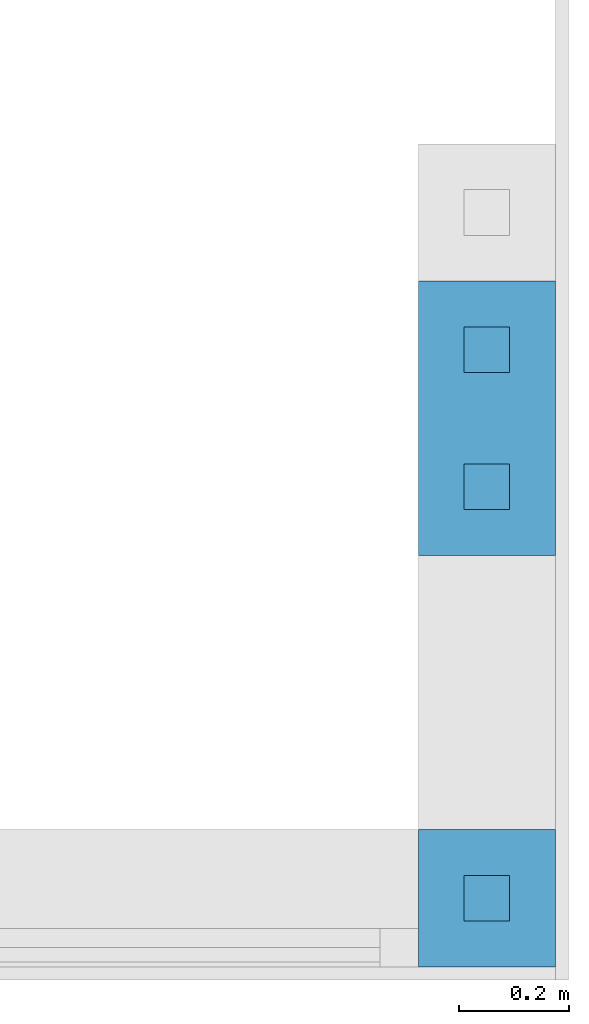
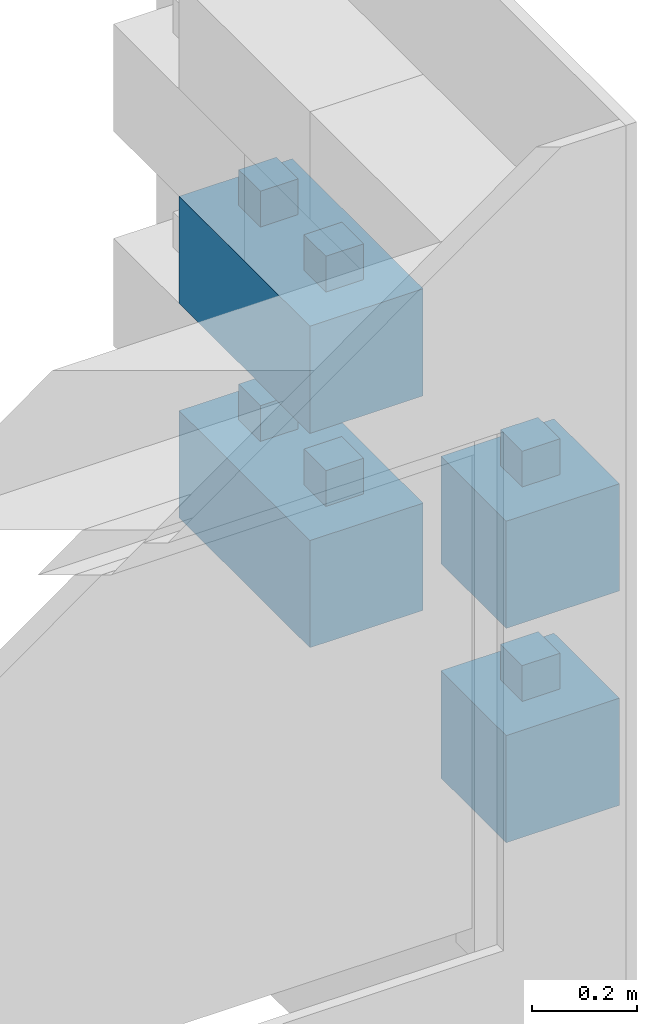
# One storey, part 3 of 5: 4 walls.
"""IFC4 building model written with IfcOpenShell, lengths in centimetres."""

import ifcopenshell
import ifcopenshell.guid

model = None  # the IFC model being written
_history = None  # IfcOwnerHistory: only IFC2X3 demands one
_inside = {}  # id of a spatial element -> (the spatial element, [elements in it])
_under = {}  # id of a project, library or spatial element -> (it, [spatial elements below it])
_declared = {}  # id of a project -> (the project, [libraries it declares])
_typed = {}  # id of a type object -> (the type object, [elements of that type])
_made_of = {}  # id of a material, layer set ... -> (it, [elements and type objects made of it])


def new_model(schema):
    """Start an empty IFC model of exactly this schema.

    Asked for "IFC4X3", IfcOpenShell would pick the latest addendum, in which some entities
    have other attributes; the version numbers below select the first issue.
    IFC2X3 requires an IfcOwnerHistory on every rooted entity: one is made here for all.
    """
    global model, _history
    if schema == "IFC4X3":
        model = ifcopenshell.file(schema_version=(4, 3, 0, 0))
    else:
        model = ifcopenshell.file(schema=schema)
    _inside.clear()
    _under.clear()
    _declared.clear()
    _typed.clear()
    _made_of.clear()
    _history = None
    if model.schema == "IFC2X3":
        org = make("IfcOrganization", Name="unknown")
        user = make(
            "IfcPersonAndOrganization",
            ThePerson=make("IfcPerson", FamilyName="unknown"),
            TheOrganization=org,
        )
        app = make(
            "IfcApplication",
            ApplicationDeveloper=org,
            Version="unknown",
            ApplicationFullName="unknown",
            ApplicationIdentifier="unknown",
        )
        _history = make(
            "IfcOwnerHistory",
            OwningUser=user,
            OwningApplication=app,
            ChangeAction="ADDED",
            CreationDate=0,
        )
    return model


def make(cls, **values):
    """One entity of the class cls with the attributes given. An attribute that is None is left unset."""
    return model.create_entity(
        cls, **{name: value for name, value in values.items() if value is not None}
    )


def entity(cls, *values):
    """Any entity or typed value of the class cls, its attributes in the order of the schema. None: left unset."""
    e = model.create_entity(cls)
    for i, value in enumerate(values):
        if value is not None:
            e[i] = value
    return e


def rooted(cls, **values):
    """An entity with a GlobalId (a new one), such as an element, a storey or a relation."""
    return make(cls, GlobalId=ifcopenshell.guid.new(), OwnerHistory=_history, **values)


def si_unit(unit_type, name, prefix=None):
    """IfcSIUnit, for example si_unit("LENGTHUNIT", "METRE", prefix="MILLI")."""
    return make("IfcSIUnit", UnitType=unit_type, Prefix=prefix, Name=name)


def converted_unit(unit_type, name, factor, base, dimensions=None, offset=None):
    """IfcConversionBasedUnit, such as the inch: factor (a typed value) times the base unit."""
    return make(
        "IfcConversionBasedUnit"
        if offset is None
        else "IfcConversionBasedUnitWithOffset",
        ConversionOffset=offset,
        Dimensions=None
        if dimensions is None
        else entity("IfcDimensionalExponents", *dimensions),
        UnitType=unit_type,
        Name=name,
        ConversionFactor=make(
            "IfcMeasureWithUnit", ValueComponent=factor, UnitComponent=base
        ),
    )


def assignment(units):
    """IfcUnitAssignment: the units of a project."""
    return None if units is None else make("IfcUnitAssignment", Units=units)


def point(xyz):
    """IfcCartesianPoint."""
    return None if xyz is None else make("IfcCartesianPoint", Coordinates=xyz)


def direction(xyz):
    """IfcDirection."""
    return None if xyz is None else make("IfcDirection", DirectionRatios=xyz)


def frame(location, z_axis=None, x_axis=None):
    """IfcAxis2Placement3D, a coordinate frame: its origin and axes. An axis left out is left unset."""
    return make(
        "IfcAxis2Placement3D",
        Location=point(location),
        Axis=direction(z_axis),
        RefDirection=direction(x_axis),
    )


def origin():
    """The frame at (0, 0, 0) with its axes left unset."""
    return frame((0.0, 0.0, 0.0))


def place(relative_to, where):
    """IfcLocalPlacement: puts the frame where relative to a parent placement (None: the world)."""
    return make(
        "IfcLocalPlacement", PlacementRelTo=relative_to, RelativePlacement=where
    )


def context(
    kind, dimensions, precision=None, world=None, true_north=None, identifier=None
):
    """IfcGeometricRepresentationContext, for example the 3D "Model" context."""
    return make(
        "IfcGeometricRepresentationContext",
        ContextIdentifier=identifier,
        ContextType=kind,
        CoordinateSpaceDimension=dimensions,
        Precision=precision,
        WorldCoordinateSystem=world,
        TrueNorth=true_north,
    )


def subcontext(parent, identifier, kind, view, scale=None):
    """IfcGeometricRepresentationSubContext, for example "Body" below "Model"."""
    return make(
        "IfcGeometricRepresentationSubContext",
        ContextIdentifier=identifier,
        ContextType=kind,
        ParentContext=parent,
        TargetScale=scale,
        TargetView=view,
    )


def project(units=None, contexts=None):
    """IfcProject with its units and contexts."""
    return rooted(
        "IfcProject",
        Name="project",
        RepresentationContexts=contexts,
        UnitsInContext=assignment(units),
    )


def spatial(cls, under=None, at=None, **own):
    """A site, building, storey or space (cls), placed at a placement, below another one or the project."""
    s = rooted(cls, ObjectPlacement=at, **own)
    if under is not None:
        _under.setdefault(under.id(), (under, []))[1].append(s)
    return s


def point_list(points):
    """IfcCartesianPointList2D or 3D."""
    cls = (
        "IfcCartesianPointList2D" if len(points[0]) == 2 else "IfcCartesianPointList3D"
    )
    return make(cls, CoordList=points)


def indexed_curve(points, segments=None, self_intersect=None):
    """IfcIndexedPolyCurve: lines and arcs through numbered points (the first is 1)."""
    return make(
        "IfcIndexedPolyCurve",
        Points=point_list(points),
        Segments=segments,
        SelfIntersect=self_intersect,
    )


def outline(outer, holes=None, kind="AREA"):
    """IfcArbitraryClosedProfileDef: a profile drawn as a closed curve; with holes, ...WithVoids."""
    if holes is None:
        return make("IfcArbitraryClosedProfileDef", ProfileType=kind, OuterCurve=outer)
    return make(
        "IfcArbitraryProfileDefWithVoids",
        ProfileType=kind,
        OuterCurve=outer,
        InnerCurves=holes,
    )


def extrude(swept, where, along, depth):
    """IfcExtrudedAreaSolid: the profile swept, set in the frame where, extruded along a direction by depth."""
    return make(
        "IfcExtrudedAreaSolid",
        SweptArea=swept,
        Position=where,
        ExtrudedDirection=direction(along),
        Depth=depth,
    )


def shape(context_of_items, identifier, shape_type, items):
    """IfcShapeRepresentation: the items that make up one representation, for example the "Body"."""
    return make(
        "IfcShapeRepresentation",
        ContextOfItems=context_of_items,
        RepresentationIdentifier=identifier,
        RepresentationType=shape_type,
        Items=items,
    )


def material(Name=None, Category=None):
    """IfcMaterial."""
    return make("IfcMaterial", Name=Name, Category=Category)


def made_of(thing, what):
    """Note that an element or type object is made of a material, layer set ...; save() writes the relation."""
    if what is not None:
        _made_of.setdefault(what.id(), (what, []))[1].append(thing)
    return thing


def type_object(cls, material=None, **own):
    """A type object (cls), such as IfcWallType, which elements share."""
    return made_of(rooted(cls, **own), material)


def element(
    cls,
    number,
    at=None,
    inside=None,
    cuts=None,
    type_object=None,
    material=None,
    context=None,
    identifier="Body",
    shape_type=None,
    held_by="IfcProductDefinitionShape",
    body=None,
    shapes=None,
    **own,
):
    """One element of the class cls, such as IfcWall. Its Tag is "e" and its number.

    at: its placement. inside: the storey or other place that contains it. cuts: it is an
    opening in that element (IfcRelVoidsElement). A single representation is given by context,
    identifier, shape_type and body (its items); several are given by shapes. held_by: the class
    of the entity that holds the representations. save() writes the other relations.
    """
    e = rooted(cls, Tag="e%d" % number, ObjectPlacement=at, **own)
    if body is not None:
        shapes = [shape(context, identifier, shape_type, body)]
    if shapes is not None:
        e.Representation = make(held_by, Representations=shapes)
    if inside is not None:
        _inside.setdefault(inside.id(), (inside, []))[1].append(e)
    if cuts is not None:
        rooted(
            "IfcRelVoidsElement", RelatingBuildingElement=cuts, RelatedOpeningElement=e
        )
    if type_object is not None:
        _typed.setdefault(type_object.id(), (type_object, []))[1].append(e)
    return made_of(e, material)


def aggregate(whole, parts):
    """IfcRelAggregates: a whole, such as a stair, and the parts it consists of."""
    return rooted("IfcRelAggregates", RelatingObject=whole, RelatedObjects=parts)


def save(model, path):
    """Write the relations noted so far, then the file.

    IfcRelAggregates (storeys below a building ...), IfcRelContainedInSpatialStructure (elements
    in a storey), IfcRelDefinesByType, IfcRelAssociatesMaterial and IfcRelDeclares: one each for
    every whole, place, type object, material and project.
    """
    for whole, parts in _under.values():
        aggregate(whole, parts)
    for where, things in _inside.values():
        rooted(
            "IfcRelContainedInSpatialStructure",
            RelatedElements=things,
            RelatingStructure=where,
        )
    for kind, things in _typed.values():
        rooted("IfcRelDefinesByType", RelatedObjects=things, RelatingType=kind)
    for what, things in _made_of.values():
        rooted("IfcRelAssociatesMaterial", RelatedObjects=things, RelatingMaterial=what)
    for by, libraries in _declared.values():
        rooted("IfcRelDeclares", RelatingContext=by, RelatedDefinitions=libraries)
    model.write(path)


model = new_model("IFC4")

# Units and contexts
model_context = context("Model", 3, precision=0.001, world=origin(), true_north=direction((0.0, 1.0)))
body_context = subcontext(model_context, "Body", "Model", "MODEL_VIEW")
ifc_project = project(units=[si_unit("LENGTHUNIT", "METRE", prefix="CENTI"), si_unit("AREAUNIT", "SQUARE_METRE"), si_unit("VOLUMEUNIT", "CUBIC_METRE"), converted_unit("PLANEANGLEUNIT", "DEGREE", entity("IfcPlaneAngleMeasure", 0.017453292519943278), si_unit("PLANEANGLEUNIT", "RADIAN"), dimensions=[0, 0, 0, 0, 0, 0, 0])], contexts=[model_context])

# Site, building, storey
site_placement = place(None, origin())
site = spatial("IfcSite", under=ifc_project, at=site_placement, Name="Default", CompositionType="ELEMENT")
building_placement = place(site_placement, origin())
building = spatial("IfcBuilding", under=site, at=building_placement, CompositionType="ELEMENT")
storey_placement = place(building_placement, frame((0.0, 0.0, -4.0)))
storey = spatial("IfcBuildingStorey", under=building, at=storey_placement, Name="L00__ABOVE Slab", CompositionType="ELEMENT", Elevation=-4.000000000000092)

# Walls
ifc_material = material(Name="Miscellaneous__Timber Block__Triqbriq, X", Category="Miscellaneous")
wall_type_1 = type_object("IfcWallType", Name="Columns : wll_s__TIMBER BLOCK__Triqbriq, Full Width__wp : WS25", PredefinedType="SOLIDWALL", material=ifc_material)
wall_1_placement = place(storey_placement, frame((3156.8289147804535, 2203.5200309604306, 175.0), z_axis=(0.0, 0.0, 1.0), x_axis=(0.0, 1.0, 0.0)))
element("IfcWall", 1, at=wall_1_placement, inside=storey, type_object=wall_type_1, material=ifc_material, Name="Columns : wll_s__TIMBER BLOCK__Triqbriq, Full Width__wp : WS25", PredefinedType="SOLIDWALL", context=body_context, shape_type="SweptSolid", body=[
    extrude(outline(indexed_curve([(-4.166666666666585, -4.166666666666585), (4.166666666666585, -4.166666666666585), (4.166666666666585, 4.166666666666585), (-4.166666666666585, 4.166666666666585), (-4.166666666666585, -4.166666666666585)], self_intersect=False)), frame((12.500000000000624, -12.500000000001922, 16.666666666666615)), (0.0, 0.0, 1.0), 16.66666666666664),
    extrude(outline(indexed_curve([(-4.166666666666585, -4.166666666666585), (4.166666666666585, -4.166666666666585), (4.166666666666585, 4.166666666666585), (-4.166666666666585, 4.166666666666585), (-4.166666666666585, -4.166666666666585)], self_intersect=False)), frame((37.50000000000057, -12.500000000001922, 16.66666666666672)), (0.0, 0.0, 1.0), 16.66666666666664),
    extrude(outline(indexed_curve([(-4.166666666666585, -4.166666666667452), (4.166666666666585, -4.166666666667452), (4.166666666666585, 4.166666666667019), (-4.166666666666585, 4.166666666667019), (-4.166666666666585, -4.166666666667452)], self_intersect=False)), frame((4.166666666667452, -4.166666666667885, 8.333333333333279)), (0.0, 0.0, 1.0), 8.333333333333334),
    extrude(outline(indexed_curve([(-4.166666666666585, -4.166666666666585), (4.166666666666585, -4.166666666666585), (4.166666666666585, 4.166666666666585), (-4.166666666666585, 4.166666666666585), (-4.166666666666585, -4.166666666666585)], self_intersect=False)), frame((4.166666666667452, -20.833333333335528, 8.333333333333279)), (0.0, 0.0, 1.0), 8.333333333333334),
    extrude(outline(indexed_curve([(-4.166666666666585, -4.166666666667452), (4.166666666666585, -4.166666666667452), (4.166666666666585, 4.166666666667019), (-4.166666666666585, 4.166666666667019), (-4.166666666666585, -4.166666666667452)], self_intersect=False)), frame((45.833333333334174, -4.166666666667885, 8.333333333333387)), (0.0, 0.0, 1.0), 8.333333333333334),
    extrude(outline(indexed_curve([(-4.166666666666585, -4.166666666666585), (4.166666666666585, -4.166666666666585), (4.166666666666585, 4.166666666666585), (-4.166666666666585, 4.166666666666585), (-4.166666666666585, -4.166666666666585)], self_intersect=False)), frame((45.833333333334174, -20.833333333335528, 8.333333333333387)), (0.0, 0.0, 1.0), 8.333333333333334),
    extrude(outline(indexed_curve([(-8.33333333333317, -4.166666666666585), (8.333333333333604, -4.166666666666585), (8.333333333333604, 4.166666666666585), (-8.33333333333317, 4.166666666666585), (-8.33333333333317, -4.166666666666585)], self_intersect=False)), frame((25.0, -20.833333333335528, 8.333333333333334)), (0.0, 0.0, 1.0), 8.333333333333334),
    extrude(outline(indexed_curve([(-8.33333333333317, -4.166666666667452), (8.333333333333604, -4.166666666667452), (8.333333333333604, 4.166666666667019), (-8.33333333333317, 4.166666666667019), (-8.33333333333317, -4.166666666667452)], self_intersect=False)), frame((25.0, -4.166666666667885, 8.333333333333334)), (0.0, 0.0, 1.0), 8.333333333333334),
    extrude(outline(indexed_curve([(-24.999999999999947, -4.166666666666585), (24.999999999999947, -4.166666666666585), (24.999999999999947, 4.166666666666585), (-24.999999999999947, 4.166666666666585), (-24.999999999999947, -4.166666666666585)], self_intersect=False)), frame((25.0, -12.500000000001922, 8.333333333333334)), (0.0, 0.0, 1.0), 8.333333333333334),
    extrude(outline(indexed_curve([(-4.166666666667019, -12.50000000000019), (4.166666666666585, -12.50000000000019), (4.166666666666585, 12.500000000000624), (-4.166666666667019, 12.500000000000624), (-4.166666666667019, -12.50000000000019)], self_intersect=False)), frame((20.833333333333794, -12.500000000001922, 0.0)), (0.0, 0.0, 1.0), 8.333333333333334),
    extrude(outline(indexed_curve([(-4.166666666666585, -12.50000000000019), (4.166666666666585, -12.50000000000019), (4.166666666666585, 12.500000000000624), (-4.166666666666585, 12.500000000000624), (-4.166666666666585, -12.50000000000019)], self_intersect=False)), frame((29.166666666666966, -12.500000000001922, 0.0)), (0.0, 0.0, 1.0), 8.333333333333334),
    extrude(outline(indexed_curve([(-4.166666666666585, -12.50000000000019), (4.166666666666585, -12.50000000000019), (4.166666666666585, 12.500000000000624), (-4.166666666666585, 12.500000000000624), (-4.166666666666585, -12.50000000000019)], self_intersect=False)), frame((4.166666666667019, -12.500000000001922, 0.0)), (0.0, 0.0, 1.0), 8.333333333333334),
    extrude(outline(indexed_curve([(-4.166666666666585, -12.50000000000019), (4.166666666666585, -12.50000000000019), (4.166666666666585, 12.500000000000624), (-4.166666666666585, 12.500000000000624), (-4.166666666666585, -12.50000000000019)], self_intersect=False)), frame((45.83333333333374, -12.500000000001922, 0.0)), (0.0, 0.0, 1.0), 8.333333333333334),
    extrude(outline(indexed_curve([(-4.166666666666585, -4.166666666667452), (4.166666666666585, -4.166666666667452), (4.166666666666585, 4.166666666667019), (-4.166666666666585, 4.166666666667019), (-4.166666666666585, -4.166666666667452)], self_intersect=False)), frame((12.50000000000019, -4.166666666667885, 0.0)), (0.0, 0.0, 1.0), 24.999999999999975),
    extrude(outline(indexed_curve([(-4.166666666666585, -4.166666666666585), (4.166666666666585, -4.166666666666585), (4.166666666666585, 4.166666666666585), (-4.166666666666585, 4.166666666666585), (-4.166666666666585, -4.166666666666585)], self_intersect=False)), frame((12.50000000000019, -20.833333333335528, 0.0)), (0.0, 0.0, 1.0), 24.999999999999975),
    extrude(outline(indexed_curve([(-4.166666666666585, -4.166666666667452), (4.166666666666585, -4.166666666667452), (4.166666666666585, 4.166666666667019), (-4.166666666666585, 4.166666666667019), (-4.166666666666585, -4.166666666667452)], self_intersect=False)), frame((37.500000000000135, -4.166666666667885, 0.0)), (0.0, 0.0, 1.0), 24.999999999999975),
    extrude(outline(indexed_curve([(-4.166666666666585, -4.166666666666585), (4.166666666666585, -4.166666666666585), (4.166666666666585, 4.166666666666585), (-4.166666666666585, 4.166666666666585), (-4.166666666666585, -4.166666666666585)], self_intersect=False)), frame((37.500000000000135, -20.833333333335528, 0.0)), (0.0, 0.0, 1.0), 24.999999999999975),
    extrude(outline(indexed_curve([(-4.166666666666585, -12.50000000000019), (4.166666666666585, -12.50000000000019), (4.166666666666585, 12.500000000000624), (-4.166666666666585, 12.500000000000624), (-4.166666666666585, -12.50000000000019)], self_intersect=False)), frame((4.166666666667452, -12.500000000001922, 16.666666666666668)), (0.0, 0.0, 1.0), 8.333333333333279),
    extrude(outline(indexed_curve([(-4.166666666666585, -12.50000000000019), (4.166666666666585, -12.50000000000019), (4.166666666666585, 12.500000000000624), (-4.166666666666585, 12.500000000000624), (-4.166666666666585, -12.50000000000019)], self_intersect=False)), frame((20.833333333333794, -12.500000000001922, 16.66666666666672)), (0.0, 0.0, 1.0), 8.333333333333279),
    extrude(outline(indexed_curve([(-4.166666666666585, -12.50000000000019), (4.166666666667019, -12.50000000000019), (4.166666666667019, 12.500000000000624), (-4.166666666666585, 12.500000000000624), (-4.166666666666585, -12.50000000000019)], self_intersect=False)), frame((29.166666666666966, -12.500000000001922, 16.66666666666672)), (0.0, 0.0, 1.0), 8.333333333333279),
    extrude(outline(indexed_curve([(-4.166666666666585, -12.50000000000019), (4.166666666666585, -12.50000000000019), (4.166666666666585, 12.500000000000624), (-4.166666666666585, 12.500000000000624), (-4.166666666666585, -12.50000000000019)], self_intersect=False)), frame((45.833333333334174, -12.500000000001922, 16.666666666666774)), (0.0, 0.0, 1.0), 8.333333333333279),
])
wall_2_placement = place(storey_placement, frame((3156.8289147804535, 2203.5200309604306, 125.0), z_axis=(0.0, 0.0, 1.0), x_axis=(0.0, 1.0, 0.0)))
element("IfcWall", 2, at=wall_2_placement, inside=storey, type_object=wall_type_1, material=ifc_material, Name="Columns : wll_s__TIMBER BLOCK__Triqbriq, Full Width__wp : WS25", PredefinedType="SOLIDWALL", context=body_context, shape_type="SweptSolid", body=[
    extrude(outline(indexed_curve([(-4.166666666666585, -4.166666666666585), (4.166666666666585, -4.166666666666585), (4.166666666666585, 4.166666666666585), (-4.166666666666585, 4.166666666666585), (-4.166666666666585, -4.166666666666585)], self_intersect=False)), frame((12.500000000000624, -12.500000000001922, 16.666666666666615)), (0.0, 0.0, 1.0), 16.66666666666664),
    extrude(outline(indexed_curve([(-4.166666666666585, -4.166666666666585), (4.166666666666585, -4.166666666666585), (4.166666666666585, 4.166666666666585), (-4.166666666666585, 4.166666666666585), (-4.166666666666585, -4.166666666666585)], self_intersect=False)), frame((37.50000000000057, -12.500000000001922, 16.66666666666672)), (0.0, 0.0, 1.0), 16.66666666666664),
    extrude(outline(indexed_curve([(-4.166666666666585, -4.166666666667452), (4.166666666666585, -4.166666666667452), (4.166666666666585, 4.166666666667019), (-4.166666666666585, 4.166666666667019), (-4.166666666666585, -4.166666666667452)], self_intersect=False)), frame((4.166666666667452, -4.166666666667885, 8.333333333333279)), (0.0, 0.0, 1.0), 8.333333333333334),
    extrude(outline(indexed_curve([(-4.166666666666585, -4.166666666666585), (4.166666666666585, -4.166666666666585), (4.166666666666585, 4.166666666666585), (-4.166666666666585, 4.166666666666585), (-4.166666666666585, -4.166666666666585)], self_intersect=False)), frame((4.166666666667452, -20.833333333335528, 8.333333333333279)), (0.0, 0.0, 1.0), 8.333333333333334),
    extrude(outline(indexed_curve([(-4.166666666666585, -4.166666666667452), (4.166666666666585, -4.166666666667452), (4.166666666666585, 4.166666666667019), (-4.166666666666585, 4.166666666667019), (-4.166666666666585, -4.166666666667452)], self_intersect=False)), frame((45.833333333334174, -4.166666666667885, 8.333333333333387)), (0.0, 0.0, 1.0), 8.333333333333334),
    extrude(outline(indexed_curve([(-4.166666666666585, -4.166666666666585), (4.166666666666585, -4.166666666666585), (4.166666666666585, 4.166666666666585), (-4.166666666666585, 4.166666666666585), (-4.166666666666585, -4.166666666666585)], self_intersect=False)), frame((45.833333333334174, -20.833333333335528, 8.333333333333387)), (0.0, 0.0, 1.0), 8.333333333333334),
    extrude(outline(indexed_curve([(-8.33333333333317, -4.166666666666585), (8.333333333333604, -4.166666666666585), (8.333333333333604, 4.166666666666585), (-8.33333333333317, 4.166666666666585), (-8.33333333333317, -4.166666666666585)], self_intersect=False)), frame((25.0, -20.833333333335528, 8.333333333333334)), (0.0, 0.0, 1.0), 8.333333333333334),
    extrude(outline(indexed_curve([(-8.33333333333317, -4.166666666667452), (8.333333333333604, -4.166666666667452), (8.333333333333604, 4.166666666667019), (-8.33333333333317, 4.166666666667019), (-8.33333333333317, -4.166666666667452)], self_intersect=False)), frame((25.0, -4.166666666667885, 8.333333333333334)), (0.0, 0.0, 1.0), 8.333333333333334),
    extrude(outline(indexed_curve([(-24.999999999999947, -4.166666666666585), (24.999999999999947, -4.166666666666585), (24.999999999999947, 4.166666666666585), (-24.999999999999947, 4.166666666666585), (-24.999999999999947, -4.166666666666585)], self_intersect=False)), frame((25.0, -12.500000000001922, 8.333333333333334)), (0.0, 0.0, 1.0), 8.333333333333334),
    extrude(outline(indexed_curve([(-4.166666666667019, -12.50000000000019), (4.166666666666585, -12.50000000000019), (4.166666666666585, 12.500000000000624), (-4.166666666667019, 12.500000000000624), (-4.166666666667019, -12.50000000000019)], self_intersect=False)), frame((20.833333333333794, -12.500000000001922, 0.0)), (0.0, 0.0, 1.0), 8.333333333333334),
    extrude(outline(indexed_curve([(-4.166666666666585, -12.50000000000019), (4.166666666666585, -12.50000000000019), (4.166666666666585, 12.500000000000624), (-4.166666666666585, 12.500000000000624), (-4.166666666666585, -12.50000000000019)], self_intersect=False)), frame((29.166666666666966, -12.500000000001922, 0.0)), (0.0, 0.0, 1.0), 8.333333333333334),
    extrude(outline(indexed_curve([(-4.166666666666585, -12.50000000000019), (4.166666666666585, -12.50000000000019), (4.166666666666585, 12.500000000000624), (-4.166666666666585, 12.500000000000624), (-4.166666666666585, -12.50000000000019)], self_intersect=False)), frame((4.166666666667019, -12.500000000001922, 0.0)), (0.0, 0.0, 1.0), 8.333333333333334),
    extrude(outline(indexed_curve([(-4.166666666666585, -12.50000000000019), (4.166666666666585, -12.50000000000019), (4.166666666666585, 12.500000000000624), (-4.166666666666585, 12.500000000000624), (-4.166666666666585, -12.50000000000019)], self_intersect=False)), frame((45.83333333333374, -12.500000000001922, 0.0)), (0.0, 0.0, 1.0), 8.333333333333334),
    extrude(outline(indexed_curve([(-4.166666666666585, -4.166666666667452), (4.166666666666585, -4.166666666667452), (4.166666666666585, 4.166666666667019), (-4.166666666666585, 4.166666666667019), (-4.166666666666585, -4.166666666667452)], self_intersect=False)), frame((12.50000000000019, -4.166666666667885, 0.0)), (0.0, 0.0, 1.0), 24.999999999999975),
    extrude(outline(indexed_curve([(-4.166666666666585, -4.166666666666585), (4.166666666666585, -4.166666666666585), (4.166666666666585, 4.166666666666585), (-4.166666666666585, 4.166666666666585), (-4.166666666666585, -4.166666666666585)], self_intersect=False)), frame((12.50000000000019, -20.833333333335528, 0.0)), (0.0, 0.0, 1.0), 24.999999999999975),
    extrude(outline(indexed_curve([(-4.166666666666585, -4.166666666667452), (4.166666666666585, -4.166666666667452), (4.166666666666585, 4.166666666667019), (-4.166666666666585, 4.166666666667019), (-4.166666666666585, -4.166666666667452)], self_intersect=False)), frame((37.500000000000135, -4.166666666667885, 0.0)), (0.0, 0.0, 1.0), 24.999999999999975),
    extrude(outline(indexed_curve([(-4.166666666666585, -4.166666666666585), (4.166666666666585, -4.166666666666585), (4.166666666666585, 4.166666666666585), (-4.166666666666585, 4.166666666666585), (-4.166666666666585, -4.166666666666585)], self_intersect=False)), frame((37.500000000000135, -20.833333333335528, 0.0)), (0.0, 0.0, 1.0), 24.999999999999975),
    extrude(outline(indexed_curve([(-4.166666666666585, -12.50000000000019), (4.166666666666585, -12.50000000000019), (4.166666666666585, 12.500000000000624), (-4.166666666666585, 12.500000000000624), (-4.166666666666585, -12.50000000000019)], self_intersect=False)), frame((4.166666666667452, -12.500000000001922, 16.666666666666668)), (0.0, 0.0, 1.0), 8.333333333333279),
    extrude(outline(indexed_curve([(-4.166666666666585, -12.50000000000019), (4.166666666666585, -12.50000000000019), (4.166666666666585, 12.500000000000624), (-4.166666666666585, 12.500000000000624), (-4.166666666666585, -12.50000000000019)], self_intersect=False)), frame((20.833333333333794, -12.500000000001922, 16.66666666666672)), (0.0, 0.0, 1.0), 8.333333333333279),
    extrude(outline(indexed_curve([(-4.166666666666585, -12.50000000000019), (4.166666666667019, -12.50000000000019), (4.166666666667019, 12.500000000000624), (-4.166666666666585, 12.500000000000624), (-4.166666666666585, -12.50000000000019)], self_intersect=False)), frame((29.166666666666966, -12.500000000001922, 16.66666666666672)), (0.0, 0.0, 1.0), 8.333333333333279),
    extrude(outline(indexed_curve([(-4.166666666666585, -12.50000000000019), (4.166666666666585, -12.50000000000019), (4.166666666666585, 12.500000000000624), (-4.166666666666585, 12.500000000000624), (-4.166666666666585, -12.50000000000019)], self_intersect=False)), frame((45.833333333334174, -12.500000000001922, 16.666666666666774)), (0.0, 0.0, 1.0), 8.333333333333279),
])
wall_type_2 = type_object("IfcWallType", Name="Columns : wll_s__TIMBER BLOCK__Triqbriq, Half Width__wp : WS25", PredefinedType="SOLIDWALL", material=ifc_material)
wall_3_placement = place(storey_placement, frame((3156.8289147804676, 2128.5200309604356, 125.0), z_axis=(0.0, 0.0, 1.0), x_axis=(0.0, 1.0, 0.0)))
element("IfcWall", 3, at=wall_3_placement, inside=storey, type_object=wall_type_2, material=ifc_material, Name="Columns : wll_s__TIMBER BLOCK__Triqbriq, Half Width__wp : WS25", PredefinedType="SOLIDWALL", context=body_context, shape_type="SweptSolid", body=[
    extrude(outline(indexed_curve([(-4.166666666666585, -4.166666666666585), (4.166666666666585, -4.166666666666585), (4.166666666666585, 4.166666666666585), (-4.166666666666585, 4.166666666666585), (-4.166666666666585, -4.166666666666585)], self_intersect=False)), frame((12.500000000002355, -12.500000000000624, 16.66666666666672), z_axis=(0.0, 0.0, 1.0), x_axis=(0.0, 1.0, 0.0)), (0.0, 0.0, 1.0), 16.66666666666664),
    extrude(outline(indexed_curve([(-4.166666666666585, -4.166666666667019), (4.166666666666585, -4.166666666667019), (4.166666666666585, 4.166666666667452), (-4.166666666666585, 4.166666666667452), (-4.166666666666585, -4.166666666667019)], self_intersect=False)), frame((4.1666666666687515, -4.166666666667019, 8.333333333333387), z_axis=(0.0, 0.0, 1.0), x_axis=(0.0, 1.0, 0.0)), (0.0, 0.0, 1.0), 8.333333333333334),
    extrude(outline(indexed_curve([(-4.166666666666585, -4.166666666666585), (4.166666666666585, -4.166666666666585), (4.166666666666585, 4.166666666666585), (-4.166666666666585, 4.166666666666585), (-4.166666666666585, -4.166666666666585)], self_intersect=False)), frame((20.83333333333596, -4.166666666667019, 8.333333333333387), z_axis=(0.0, 0.0, 1.0), x_axis=(0.0, 1.0, 0.0)), (0.0, 0.0, 1.0), 8.333333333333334),
    extrude(outline(indexed_curve([(-4.166666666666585, -4.166666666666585), (4.166666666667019, -4.166666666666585), (4.166666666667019, 4.166666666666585), (-4.166666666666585, 4.166666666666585), (-4.166666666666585, -4.166666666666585)], self_intersect=False)), frame((20.83333333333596, -20.833333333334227, 8.333333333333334), z_axis=(0.0, 0.0, 1.0), x_axis=(0.0, 1.0, 0.0)), (0.0, 0.0, 1.0), 8.333333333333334),
    extrude(outline(indexed_curve([(-4.166666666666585, -4.166666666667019), (4.166666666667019, -4.166666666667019), (4.166666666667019, 4.166666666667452), (-4.166666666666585, 4.166666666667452), (-4.166666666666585, -4.166666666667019)], self_intersect=False)), frame((4.1666666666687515, -20.833333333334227, 8.333333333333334), z_axis=(0.0, 0.0, 1.0), x_axis=(0.0, 1.0, 0.0)), (0.0, 0.0, 1.0), 8.333333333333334),
    extrude(outline(indexed_curve([(-12.500000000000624, -4.166666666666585), (12.499999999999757, -4.166666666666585), (12.499999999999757, 4.166666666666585), (-12.500000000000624, 4.166666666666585), (-12.500000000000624, -4.166666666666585)], self_intersect=False)), frame((12.500000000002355, -12.50000000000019, 8.333333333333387), z_axis=(0.0, 0.0, 1.0), x_axis=(0.0, 1.0, 0.0)), (0.0, 0.0, 1.0), 8.333333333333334),
    extrude(outline(indexed_curve([(-4.166666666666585, -12.50000000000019), (4.166666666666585, -12.50000000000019), (4.166666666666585, 12.500000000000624), (-4.166666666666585, 12.500000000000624), (-4.166666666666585, -12.50000000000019)], self_intersect=False)), frame((12.500000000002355, -20.833333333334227, 0.0), z_axis=(0.0, 0.0, 1.0), x_axis=(0.0, 1.0, 0.0)), (0.0, 0.0, 1.0), 8.333333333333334),
    extrude(outline(indexed_curve([(-4.166666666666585, -12.50000000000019), (4.166666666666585, -12.50000000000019), (4.166666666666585, 12.500000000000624), (-4.166666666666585, 12.500000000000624), (-4.166666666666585, -12.50000000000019)], self_intersect=False)), frame((12.500000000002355, -4.166666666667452, 0.0), z_axis=(0.0, 0.0, 1.0), x_axis=(0.0, 1.0, 0.0)), (0.0, 0.0, 1.0), 8.333333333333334),
    extrude(outline(indexed_curve([(-4.166666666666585, -4.166666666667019), (4.166666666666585, -4.166666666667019), (4.166666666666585, 4.166666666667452), (-4.166666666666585, 4.166666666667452), (-4.166666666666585, -4.166666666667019)], self_intersect=False)), frame((4.1666666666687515, -12.500000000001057, 0.0), z_axis=(0.0, 0.0, 1.0), x_axis=(0.0, 1.0, 0.0)), (0.0, 0.0, 1.0), 24.999999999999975),
    extrude(outline(indexed_curve([(-4.166666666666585, -4.166666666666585), (4.166666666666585, -4.166666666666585), (4.166666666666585, 4.166666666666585), (-4.166666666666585, 4.166666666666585), (-4.166666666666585, -4.166666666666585)], self_intersect=False)), frame((20.83333333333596, -12.500000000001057, 0.0), z_axis=(0.0, 0.0, 1.0), x_axis=(0.0, 1.0, 0.0)), (0.0, 0.0, 1.0), 24.999999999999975),
    extrude(outline(indexed_curve([(-4.166666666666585, -12.50000000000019), (4.166666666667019, -12.50000000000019), (4.166666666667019, 12.500000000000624), (-4.166666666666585, 12.500000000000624), (-4.166666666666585, -12.50000000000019)], self_intersect=False)), frame((12.500000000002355, -20.833333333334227, 16.66666666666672), z_axis=(0.0, 0.0, 1.0), x_axis=(0.0, 1.0, 0.0)), (0.0, 0.0, 1.0), 8.333333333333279),
    extrude(outline(indexed_curve([(-4.166666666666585, -12.50000000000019), (4.166666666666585, -12.50000000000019), (4.166666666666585, 12.500000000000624), (-4.166666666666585, 12.500000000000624), (-4.166666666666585, -12.50000000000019)], self_intersect=False)), frame((12.500000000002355, -4.166666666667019, 16.666666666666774), z_axis=(0.0, 0.0, 1.0), x_axis=(0.0, 1.0, 0.0)), (0.0, 0.0, 1.0), 8.333333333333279),
])
wall_4_placement = place(storey_placement, frame((3156.8289147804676, 2128.5200309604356, 175.0), z_axis=(0.0, 0.0, 1.0), x_axis=(0.0, 1.0, 0.0)))
element("IfcWall", 4, at=wall_4_placement, inside=storey, type_object=wall_type_2, material=ifc_material, Name="Columns : wll_s__TIMBER BLOCK__Triqbriq, Half Width__wp : WS25", PredefinedType="SOLIDWALL", context=body_context, shape_type="SweptSolid", body=[
    extrude(outline(indexed_curve([(-4.166666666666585, -4.166666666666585), (4.166666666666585, -4.166666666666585), (4.166666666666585, 4.166666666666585), (-4.166666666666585, 4.166666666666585), (-4.166666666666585, -4.166666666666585)], self_intersect=False)), frame((12.500000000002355, -12.500000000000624, 16.66666666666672), z_axis=(0.0, 0.0, 1.0), x_axis=(0.0, 1.0, 0.0)), (0.0, 0.0, 1.0), 16.66666666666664),
    extrude(outline(indexed_curve([(-4.166666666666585, -4.166666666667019), (4.166666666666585, -4.166666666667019), (4.166666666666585, 4.166666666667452), (-4.166666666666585, 4.166666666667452), (-4.166666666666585, -4.166666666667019)], self_intersect=False)), frame((4.1666666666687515, -4.166666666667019, 8.333333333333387), z_axis=(0.0, 0.0, 1.0), x_axis=(0.0, 1.0, 0.0)), (0.0, 0.0, 1.0), 8.333333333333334),
    extrude(outline(indexed_curve([(-4.166666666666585, -4.166666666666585), (4.166666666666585, -4.166666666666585), (4.166666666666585, 4.166666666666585), (-4.166666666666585, 4.166666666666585), (-4.166666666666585, -4.166666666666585)], self_intersect=False)), frame((20.83333333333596, -4.166666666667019, 8.333333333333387), z_axis=(0.0, 0.0, 1.0), x_axis=(0.0, 1.0, 0.0)), (0.0, 0.0, 1.0), 8.333333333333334),
    extrude(outline(indexed_curve([(-4.166666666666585, -4.166666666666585), (4.166666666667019, -4.166666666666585), (4.166666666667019, 4.166666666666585), (-4.166666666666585, 4.166666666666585), (-4.166666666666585, -4.166666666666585)], self_intersect=False)), frame((20.83333333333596, -20.833333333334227, 8.333333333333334), z_axis=(0.0, 0.0, 1.0), x_axis=(0.0, 1.0, 0.0)), (0.0, 0.0, 1.0), 8.333333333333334),
    extrude(outline(indexed_curve([(-4.166666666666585, -4.166666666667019), (4.166666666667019, -4.166666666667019), (4.166666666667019, 4.166666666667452), (-4.166666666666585, 4.166666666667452), (-4.166666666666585, -4.166666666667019)], self_intersect=False)), frame((4.1666666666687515, -20.833333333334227, 8.333333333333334), z_axis=(0.0, 0.0, 1.0), x_axis=(0.0, 1.0, 0.0)), (0.0, 0.0, 1.0), 8.333333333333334),
    extrude(outline(indexed_curve([(-12.500000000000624, -4.166666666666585), (12.499999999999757, -4.166666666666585), (12.499999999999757, 4.166666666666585), (-12.500000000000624, 4.166666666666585), (-12.500000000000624, -4.166666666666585)], self_intersect=False)), frame((12.500000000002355, -12.50000000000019, 8.333333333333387), z_axis=(0.0, 0.0, 1.0), x_axis=(0.0, 1.0, 0.0)), (0.0, 0.0, 1.0), 8.333333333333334),
    extrude(outline(indexed_curve([(-4.166666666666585, -12.50000000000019), (4.166666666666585, -12.50000000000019), (4.166666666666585, 12.500000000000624), (-4.166666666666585, 12.500000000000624), (-4.166666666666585, -12.50000000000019)], self_intersect=False)), frame((12.500000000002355, -20.833333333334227, 0.0), z_axis=(0.0, 0.0, 1.0), x_axis=(0.0, 1.0, 0.0)), (0.0, 0.0, 1.0), 8.333333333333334),
    extrude(outline(indexed_curve([(-4.166666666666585, -12.50000000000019), (4.166666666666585, -12.50000000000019), (4.166666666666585, 12.500000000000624), (-4.166666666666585, 12.500000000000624), (-4.166666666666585, -12.50000000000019)], self_intersect=False)), frame((12.500000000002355, -4.166666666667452, 0.0), z_axis=(0.0, 0.0, 1.0), x_axis=(0.0, 1.0, 0.0)), (0.0, 0.0, 1.0), 8.333333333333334),
    extrude(outline(indexed_curve([(-4.166666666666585, -4.166666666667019), (4.166666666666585, -4.166666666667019), (4.166666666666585, 4.166666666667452), (-4.166666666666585, 4.166666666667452), (-4.166666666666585, -4.166666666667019)], self_intersect=False)), frame((4.1666666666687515, -12.500000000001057, 0.0), z_axis=(0.0, 0.0, 1.0), x_axis=(0.0, 1.0, 0.0)), (0.0, 0.0, 1.0), 24.999999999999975),
    extrude(outline(indexed_curve([(-4.166666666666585, -4.166666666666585), (4.166666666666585, -4.166666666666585), (4.166666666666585, 4.166666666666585), (-4.166666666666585, 4.166666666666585), (-4.166666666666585, -4.166666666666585)], self_intersect=False)), frame((20.83333333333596, -12.500000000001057, 0.0), z_axis=(0.0, 0.0, 1.0), x_axis=(0.0, 1.0, 0.0)), (0.0, 0.0, 1.0), 24.999999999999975),
    extrude(outline(indexed_curve([(-4.166666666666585, -12.50000000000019), (4.166666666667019, -12.50000000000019), (4.166666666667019, 12.500000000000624), (-4.166666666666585, 12.500000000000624), (-4.166666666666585, -12.50000000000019)], self_intersect=False)), frame((12.500000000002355, -20.833333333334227, 16.66666666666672), z_axis=(0.0, 0.0, 1.0), x_axis=(0.0, 1.0, 0.0)), (0.0, 0.0, 1.0), 8.333333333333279),
    extrude(outline(indexed_curve([(-4.166666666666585, -12.50000000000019), (4.166666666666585, -12.50000000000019), (4.166666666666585, 12.500000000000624), (-4.166666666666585, 12.500000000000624), (-4.166666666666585, -12.50000000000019)], self_intersect=False)), frame((12.500000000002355, -4.166666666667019, 16.666666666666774), z_axis=(0.0, 0.0, 1.0), x_axis=(0.0, 1.0, 0.0)), (0.0, 0.0, 1.0), 8.333333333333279),
])

save(model, "model.ifc")
